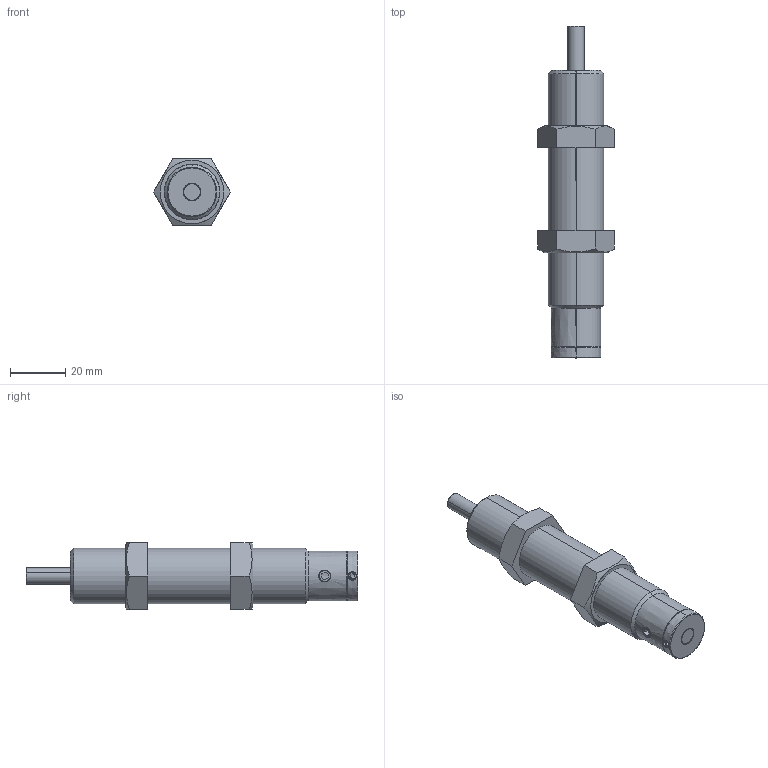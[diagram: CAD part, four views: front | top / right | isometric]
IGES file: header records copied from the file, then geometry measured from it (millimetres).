
Start section: SolidWorks IGES file using analytic representation for surfaces
Bounding box: 27.71 x 120 x 24 mm (x, y, z)
Surface area: 14421.1 mm2 (no closed solid volume)
Topology: 0 solids, 0 shells, 99 faces, 1446 edges, 1446 vertices
Faces by surface type: revolution 54, bspline 45
